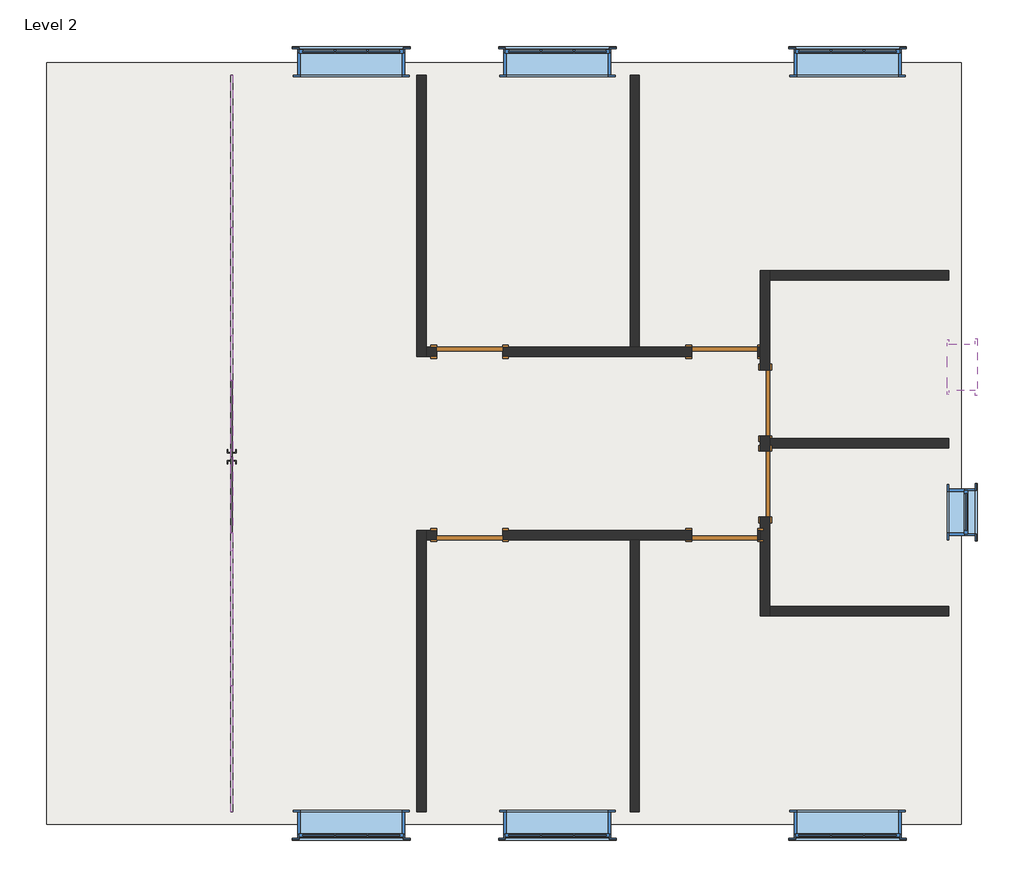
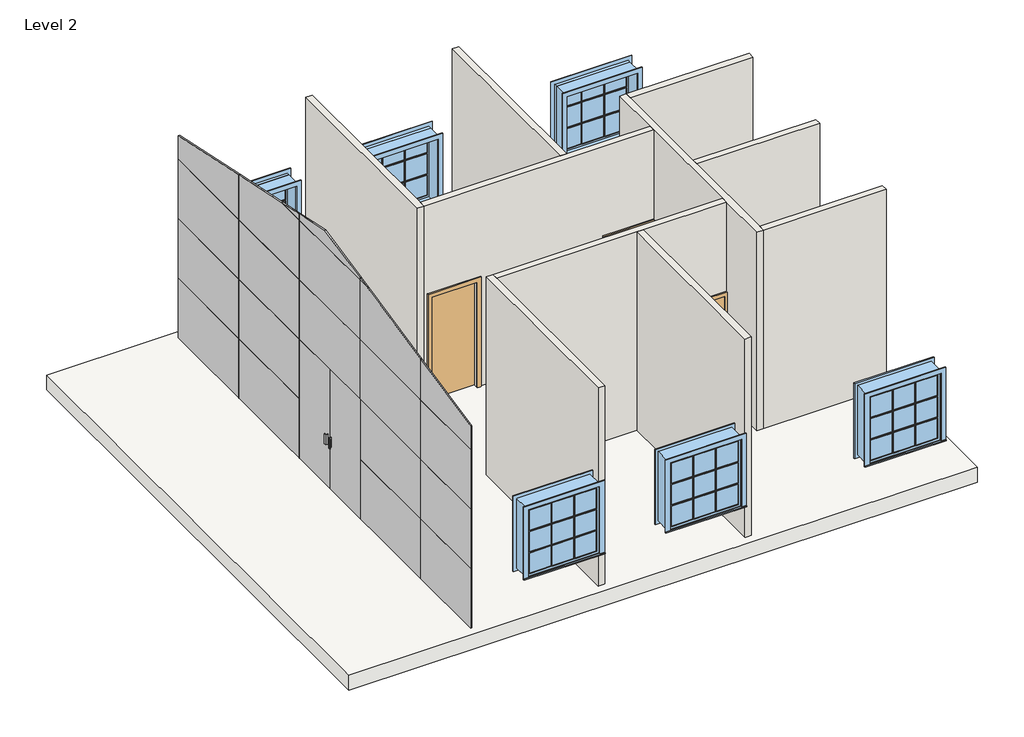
# One storey: 22 plates, 10 walls, 8 windows, 6 doors, 1 slab.
"""IFC4 building model written with IfcOpenShell, lengths in millimetres."""

from ifc_helpers import new_model, si_unit, frame, origin, place, context, project, spatial, polyline, outline, extrude, faceted_brep, transform, mapped, element, save
from components import m_single_flush_0864_x_2134mm_f97c17fc, m_single_flush_0864_x_2134mm_c8713c46, m_curtain_wall_dbl_glass_m_curtain_wall_dbl_glass_c5b9b46c, system_panel_glazed_d184565c, system_panel_glazed_a29ab13c, system_panel_glazed_8885a126, system_panel_glazed_2cf4602f, system_panel_glazed_9fd06ce3, system_panel_glazed_8aa4ee30, system_panel_glazed_09b1b49a, system_panel_glazed_e96e9fbf, system_panel_glazed_1f278f70, m_casement_3x3_with_trim_1100_x_1400_df31fcd5, m_casement_with_trim_0610_x_0610mm_632b6733

model = new_model("IFC4")

# Units and contexts
model_context = context("Model", 3, world=origin())
ifc_project = project(units=[si_unit("LENGTHUNIT", "METRE", prefix="MILLI")], contexts=[model_context])

# Site, building, storey
site = spatial("IfcSite", under=ifc_project)
building = spatial("IfcBuilding", under=site)
storey = spatial("IfcBuildingStorey", under=building, Name="Level 2", Elevation=4000.0)

# Doors
placement = place(None, origin())
m_single_flush_0864_x_2134mm_shape = m_single_flush_0864_x_2134mm_f97c17fc(model_context)
element("IfcDoor", 1, ObjectType="M_Single-Flush : 0864 x 2134mm", at=placement, inside=storey, context=model_context, shape_type="MappedRepresentation", body=[
    mapped(m_single_flush_0864_x_2134mm_shape, transform((3757.7395993, 123.3609063, 4000.0), x_axis=(0.0, -1.0, 0.0), y_axis=(1.0, 0.0, 0.0), z_axis=(0.0, 0.0, 1.0))),
])
element("IfcDoor", 2, ObjectType="M_Single-Flush : 0864 x 2134mm", at=placement, inside=storey, context=model_context, shape_type="MappedRepresentation", body=[
    mapped(m_single_flush_0864_x_2134mm_shape, transform((3225.7395993, 791.3609063, 4000.0), x_axis=(1.0, 0.0, 0.0), y_axis=(0.0, 1.0, 0.0), z_axis=(0.0, 0.0, 1.0))),
])
element("IfcDoor", 3, ObjectType="M_Single-Flush : 0864 x 2134mm", at=placement, inside=storey, context=model_context, shape_type="MappedRepresentation", body=[
    mapped(m_single_flush_0864_x_2134mm_shape, transform((-113.960681, -1608.6390937, 4000.0), x_axis=(-1.0, 0.0, 0.0), y_axis=(0.0, -1.0, 0.0), z_axis=(0.0, 0.0, 1.0))),
])
m_single_flush_0864_x_2134mm_2_shape = m_single_flush_0864_x_2134mm_c8713c46(model_context)
element("IfcDoor", 4, ObjectType="M_Single-Flush : 0864 x 2134mm", at=placement, inside=storey, context=model_context, shape_type="MappedRepresentation", body=[
    mapped(m_single_flush_0864_x_2134mm_2_shape, transform((-113.960681, 791.3609063, 4000.0), x_axis=(-1.0, 0.0, 0.0), y_axis=(0.0, -1.0, 0.0), z_axis=(0.0, 0.0, 1.0))),
])
element("IfcDoor", 5, ObjectType="M_Single-Flush : 0864 x 2134mm", at=placement, inside=storey, context=model_context, shape_type="MappedRepresentation", body=[
    mapped(m_single_flush_0864_x_2134mm_2_shape, transform((3757.7395993, -940.6390937, 4000.0), x_axis=(0.0, 1.0, 0.0), y_axis=(-1.0, 0.0, 0.0), z_axis=(0.0, 0.0, 1.0))),
])
element("IfcDoor", 6, ObjectType="M_Single-Flush : 0864 x 2134mm", at=placement, inside=storey, context=model_context, shape_type="MappedRepresentation", body=[
    mapped(m_single_flush_0864_x_2134mm_2_shape, transform((3225.7395993, -1608.6390937, 4000.0), x_axis=(1.0, 0.0, 0.0), y_axis=(0.0, 1.0, 0.0), z_axis=(0.0, 0.0, 1.0))),
])

# Plates
m_curtain_wall_dbl_glass_m_curtain_wall_dbl_glass_shape = m_curtain_wall_dbl_glass_m_curtain_wall_dbl_glass_c5b9b46c(model_context)
element("IfcPlate", 7, ObjectType="M_Curtain Wall Dbl Glass : M_Curtain Wall Dbl Glass", at=placement, inside=storey, context=model_context, shape_type="MappedRepresentation", body=[
    mapped(m_curtain_wall_dbl_glass_m_curtain_wall_dbl_glass_shape, transform((-3188.7166223, -583.6390937, 4000.0), x_axis=(0.0, -1.0, 0.0), y_axis=(1.0, 0.0, 0.0), z_axis=(0.0, 0.0, 1.0))),
])
system_panel_glazed_shape = system_panel_glazed_d184565c(model_context)
element("IfcPlate", 8, ObjectType="System Panel : Glazed", at=placement, inside=storey, context=model_context, shape_type="MappedRepresentation", body=[
    mapped(system_panel_glazed_shape, transform((-3188.7166223, 3416.3609063, 4000.0), x_axis=(0.0, -1.0, 0.0), y_axis=(1.0, 0.0, 0.0), z_axis=(0.0, 0.0, 1.0))),
])
element("IfcPlate", 9, ObjectType="System Panel : Glazed", at=placement, inside=storey, context=model_context, shape_type="MappedRepresentation", body=[
    mapped(system_panel_glazed_shape, transform((-3188.7166223, 1416.3609063, 4000.0), x_axis=(0.0, -1.0, 0.0), y_axis=(1.0, 0.0, 0.0), z_axis=(0.0, 0.0, 1.0))),
])
element("IfcPlate", 10, ObjectType="System Panel : Glazed", at=placement, inside=storey, context=model_context, shape_type="MappedRepresentation", body=[
    mapped(system_panel_glazed_shape, transform((-3188.7166223, -2583.6390937, 4000.0), x_axis=(0.0, -1.0, 0.0), y_axis=(1.0, 0.0, 0.0), z_axis=(0.0, 0.0, 1.0))),
])
element("IfcPlate", 11, ObjectType="System Panel : Glazed", at=placement, inside=storey, context=model_context, shape_type="MappedRepresentation", body=[
    mapped(system_panel_glazed_shape, transform((-3188.7166223, 3416.3609063, 5200.0), x_axis=(0.0, -1.0, 0.0), y_axis=(1.0, 0.0, 0.0), z_axis=(0.0, 0.0, 1.0))),
])
element("IfcPlate", 12, ObjectType="System Panel : Glazed", at=placement, inside=storey, context=model_context, shape_type="MappedRepresentation", body=[
    mapped(system_panel_glazed_shape, transform((-3188.7166223, 1416.3609063, 5200.0), x_axis=(0.0, -1.0, 0.0), y_axis=(1.0, 0.0, 0.0), z_axis=(0.0, 0.0, 1.0))),
])
element("IfcPlate", 13, ObjectType="System Panel : Glazed", at=placement, inside=storey, context=model_context, shape_type="MappedRepresentation", body=[
    mapped(system_panel_glazed_shape, transform((-3188.7166223, -2583.6390937, 5200.0), x_axis=(0.0, -1.0, 0.0), y_axis=(1.0, 0.0, 0.0), z_axis=(0.0, 0.0, 1.0))),
])
element("IfcPlate", 14, ObjectType="System Panel : Glazed", at=placement, inside=storey, context=model_context, shape_type="MappedRepresentation", body=[
    mapped(system_panel_glazed_shape, transform((-3188.7166223, 3416.3609063, 6400.0), x_axis=(0.0, -1.0, 0.0), y_axis=(1.0, 0.0, 0.0), z_axis=(0.0, 0.0, 1.0))),
])
element("IfcPlate", 15, ObjectType="System Panel : Glazed", at=placement, inside=storey, context=model_context, shape_type="MappedRepresentation", body=[
    mapped(system_panel_glazed_shape, transform((-3188.7166223, 1416.3609063, 6400.0), x_axis=(0.0, -1.0, 0.0), y_axis=(1.0, 0.0, 0.0), z_axis=(0.0, 0.0, 1.0))),
])
element("IfcPlate", 16, ObjectType="System Panel : Glazed", at=placement, inside=storey, context=model_context, shape_type="MappedRepresentation", body=[
    mapped(system_panel_glazed_shape, transform((-3188.7166223, -583.6390937, 6400.0), x_axis=(0.0, -1.0, 0.0), y_axis=(1.0, 0.0, 0.0), z_axis=(0.0, 0.0, 1.0))),
])
element("IfcPlate", 17, ObjectType="System Panel : Glazed", at=placement, inside=storey, context=model_context, shape_type="MappedRepresentation", body=[
    mapped(system_panel_glazed_shape, transform((-3188.7166223, -2583.6390937, 6400.0), x_axis=(0.0, -1.0, 0.0), y_axis=(1.0, 0.0, 0.0), z_axis=(0.0, 0.0, 1.0))),
])
element("IfcPlate", 18, ObjectType="System Panel : Glazed", at=placement, inside=storey, context=model_context, shape_type="MappedRepresentation", body=[
    mapped(system_panel_glazed_shape, transform((-3188.7166223, -583.6390937, 7600.0), x_axis=(0.0, -1.0, 0.0), y_axis=(1.0, 0.0, 0.0), z_axis=(0.0, 0.0, 1.0))),
])
system_panel_glazed_2_shape = system_panel_glazed_a29ab13c(model_context)
element("IfcPlate", 19, ObjectType="System Panel : Glazed", at=placement, inside=storey, context=model_context, shape_type="MappedRepresentation", body=[
    mapped(system_panel_glazed_2_shape, transform((-3188.7166223, -4408.6390937, 4000.0), x_axis=(0.0, -1.0, 0.0), y_axis=(1.0, 0.0, 0.0), z_axis=(0.0, 0.0, 1.0))),
])
element("IfcPlate", 20, ObjectType="System Panel : Glazed", at=placement, inside=storey, context=model_context, shape_type="MappedRepresentation", body=[
    mapped(system_panel_glazed_2_shape, transform((-3188.7166223, -4408.6390937, 5200.0), x_axis=(0.0, -1.0, 0.0), y_axis=(1.0, 0.0, 0.0), z_axis=(0.0, 0.0, 1.0))),
])
element("IfcPlate", 21, ObjectType="System Panel : Glazed", at=placement, inside=storey, context=model_context, shape_type="MappedRepresentation", body=[
    mapped(system_panel_glazed_2_shape, transform((-3188.7166223, -4408.6390937, 6400.0), x_axis=(0.0, -1.0, 0.0), y_axis=(1.0, 0.0, 0.0), z_axis=(0.0, 0.0, 1.0))),
])
system_panel_glazed_3_shape = system_panel_glazed_8885a126(model_context)
element("IfcPlate", 22, ObjectType="System Panel : Glazed", at=placement, inside=storey, context=model_context, shape_type="MappedRepresentation", body=[
    mapped(system_panel_glazed_3_shape, transform((-3188.7166223, 3416.3609063, 7600.0), x_axis=(0.0, -1.0, 0.0), y_axis=(1.0, 0.0, 0.0), z_axis=(0.0, 0.0, 1.0))),
])
system_panel_glazed_4_shape = system_panel_glazed_2cf4602f(model_context)
element("IfcPlate", 23, ObjectType="System Panel : Glazed", at=placement, inside=storey, context=model_context, shape_type="MappedRepresentation", body=[
    mapped(system_panel_glazed_4_shape, transform((-3188.7166223, 1416.3609063, 7600.0), x_axis=(0.0, -1.0, 0.0), y_axis=(1.0, 0.0, 0.0), z_axis=(0.0, 0.0, 1.0))),
])
system_panel_glazed_5_shape = system_panel_glazed_9fd06ce3(model_context)
element("IfcPlate", 24, ObjectType="System Panel : Glazed", at=placement, inside=storey, context=model_context, shape_type="MappedRepresentation", body=[
    mapped(system_panel_glazed_5_shape, transform((-3188.7166223, -2583.6390937, 7600.0), x_axis=(0.0, -1.0, 0.0), y_axis=(1.0, 0.0, 0.0), z_axis=(0.0, 0.0, 1.0))),
])
system_panel_glazed_6_shape = system_panel_glazed_8aa4ee30(model_context)
element("IfcPlate", 25, ObjectType="System Panel : Glazed", at=placement, inside=storey, context=model_context, shape_type="MappedRepresentation", body=[
    mapped(system_panel_glazed_6_shape, transform((-3188.7166223, -4408.6390937, 7600.0), x_axis=(0.0, -1.0, 0.0), y_axis=(1.0, 0.0, 0.0), z_axis=(0.0, 0.0, 1.0))),
])
system_panel_glazed_7_shape = system_panel_glazed_09b1b49a(model_context)
element("IfcPlate", 26, ObjectType="System Panel : Glazed", at=placement, inside=storey, context=model_context, shape_type="MappedRepresentation", body=[
    mapped(system_panel_glazed_7_shape, transform((-3188.7166223, 709.5088625, 8800.0), x_axis=(0.0, -1.0, 0.0), y_axis=(1.0, 0.0, 0.0), z_axis=(0.0, 0.0, 1.0))),
])
system_panel_glazed_8_shape = system_panel_glazed_e96e9fbf(model_context)
element("IfcPlate", 27, ObjectType="System Panel : Glazed", at=placement, inside=storey, context=model_context, shape_type="MappedRepresentation", body=[
    mapped(system_panel_glazed_8_shape, transform((-3188.7166223, -583.6390937, 8800.0), x_axis=(0.0, -1.0, 0.0), y_axis=(1.0, 0.0, 0.0), z_axis=(0.0, 0.0, 1.0))),
])
system_panel_glazed_9_shape = system_panel_glazed_1f278f70(model_context)
element("IfcPlate", 28, ObjectType="System Panel : Glazed", at=placement, inside=storey, context=model_context, shape_type="MappedRepresentation", body=[
    mapped(system_panel_glazed_9_shape, transform((-3188.7166223, -1701.7870499, 8800.0), x_axis=(0.0, -1.0, 0.0), y_axis=(1.0, 0.0, 0.0), z_axis=(0.0, 0.0, 1.0))),
])

# Slab
element("IfcSlab", 29, ObjectType="Generic 300mm", at=placement, inside=storey, context=model_context, shape_type="SweptSolid", body=[
    extrude(outline(polyline([(-5653.7166223, 4581.3609063), (6326.2833777, 4581.3609063), (6326.2833777, -5398.6390937), (-5653.7166223, -5398.6390937), (-5653.7166223, 4581.3609063)])), frame((0.0, 0.0, 3700.0), z_axis=(0.0, 0.0, 1.0), x_axis=(1.0, 0.0, 0.0)), (0.0, 0.0, 1.0), 300.0),
])

# Walls
element("IfcWall", 30, ObjectType="Interior - Blockwork 100", at=placement, inside=storey, context=model_context, shape_type="Brep", body=[
    faceted_brep([(-683.960681, -5233.6390937, 4000.0), (-683.960681, -1670.6390937, 4000.0), (-683.960681, -1546.6390937, 4000.0), (-683.960681, -1546.6390937, 8000.0), (-683.960681, -1670.6390937, 8000.0), (-683.960681, -5233.6390937, 8000.0), (-807.960681, -5233.6390937, 4000.0), (-807.960681, -5233.6390937, 8000.0), (-807.960681, -1546.6390937, 8000.0), (-807.960681, -1546.6390937, 4000.0)], [[[0, 1, 2, 3, 4, 5]], [[6, 7, 8, 9]], [[2, 1, 0, 6, 9]], [[5, 4, 3, 8, 7]], [[0, 5, 7, 6]], [[3, 2, 9, 8]]]),
])
element("IfcWall", 31, ObjectType="Interior - Blockwork 100", at=placement, inside=storey, context=model_context, shape_type="Brep", body=[
    faceted_brep([(-683.960681, 729.3609063, 4000.0), (-545.960681, 729.3609063, 4000.0), (-545.960681, 729.3609063, 6134.0), (318.039319, 729.3609063, 6134.0), (318.039319, 729.3609063, 4000.0), (2793.7395993, 729.3609063, 4000.0), (2793.7395993, 729.3609063, 6134.0), (3657.7395993, 729.3609063, 6134.0), (3657.7395993, 729.3609063, 4000.0), (3695.7395993, 729.3609063, 4000.0), (3695.7395993, 729.3609063, 8000.0), (-683.960681, 729.3609063, 8000.0), (-545.960681, 853.3609063, 6134.0), (-545.960681, 853.3609063, 4000.0), (-683.960681, 853.3609063, 4000.0), (-683.960681, 853.3609063, 8000.0), (1987.2833777, 853.3609063, 8000.0), (2111.2833777, 853.3609063, 8000.0), (3695.7395993, 853.3609063, 8000.0), (3695.7395993, 853.3609063, 4000.0), (3657.7395993, 853.3609063, 4000.0), (3657.7395993, 853.3609063, 6134.0), (2793.7395993, 853.3609063, 6134.0), (2793.7395993, 853.3609063, 4000.0), (2111.2833777, 853.3609063, 4000.0), (1987.2833777, 853.3609063, 4000.0), (318.039319, 853.3609063, 4000.0), (318.039319, 853.3609063, 6134.0)], [[[0, 1, 2, 3, 4, 5, 6, 7, 8, 9, 10, 11]], [[12, 13, 14, 15, 16, 17, 18, 19, 20, 21, 22, 23, 24, 25, 26, 27]], [[9, 8, 20, 19]], [[14, 13, 1, 0]], [[26, 25, 24, 23, 5, 4]], [[11, 10, 18, 17, 16, 15]], [[0, 11, 15, 14]], [[10, 9, 19, 18]], [[21, 20, 8, 7]], [[22, 21, 7, 6]], [[23, 22, 6, 5]], [[2, 1, 13, 12]], [[3, 2, 12, 27]], [[4, 3, 27, 26]]]),
])
element("IfcWall", 32, ObjectType="Interior - Blockwork 100", at=placement, inside=storey, context=model_context, shape_type="Brep", body=[
    faceted_brep([(-683.960681, -1670.6390937, 4000.0), (-545.960681, -1670.6390937, 4000.0), (-545.960681, -1670.6390937, 6134.0), (318.039319, -1670.6390937, 6134.0), (318.039319, -1670.6390937, 4000.0), (1987.2833777, -1670.6390937, 4000.0), (2111.2833777, -1670.6390937, 4000.0), (2793.7395993, -1670.6390937, 4000.0), (2793.7395993, -1670.6390937, 6134.0), (3657.7395993, -1670.6390937, 6134.0), (3657.7395993, -1670.6390937, 4000.0), (3695.7395993, -1670.6390937, 4000.0), (3695.7395993, -1670.6390937, 8000.0), (2111.2833777, -1670.6390937, 8000.0), (1987.2833777, -1670.6390937, 8000.0), (-683.960681, -1670.6390937, 8000.0), (-545.960681, -1546.6390937, 6134.0), (-545.960681, -1546.6390937, 4000.0), (-683.960681, -1546.6390937, 4000.0), (-683.960681, -1546.6390937, 8000.0), (3695.7395993, -1546.6390937, 8000.0), (3695.7395993, -1546.6390937, 4000.0), (3657.7395993, -1546.6390937, 4000.0), (3657.7395993, -1546.6390937, 6134.0), (2793.7395993, -1546.6390937, 6134.0), (2793.7395993, -1546.6390937, 4000.0), (318.039319, -1546.6390937, 4000.0), (318.039319, -1546.6390937, 6134.0)], [[[0, 1, 2, 3, 4, 5, 6, 7, 8, 9, 10, 11, 12, 13, 14, 15]], [[16, 17, 18, 19, 20, 21, 22, 23, 24, 25, 26, 27]], [[11, 10, 22, 21]], [[18, 17, 1, 0]], [[26, 25, 7, 6, 5, 4]], [[15, 14, 13, 12, 20, 19]], [[0, 15, 19, 18]], [[12, 11, 21, 20]], [[23, 22, 10, 9]], [[24, 23, 9, 8]], [[25, 24, 8, 7]], [[2, 1, 17, 16]], [[3, 2, 16, 27]], [[4, 3, 27, 26]]]),
])
element("IfcWall", 33, ObjectType="Interior - Blockwork 100", at=placement, inside=storey, context=model_context, shape_type="Brep", body=[
    faceted_brep([(3695.7395993, -308.6390937, 4000.0), (3695.7395993, -508.6390937, 4000.0), (3695.7395993, -508.6390937, 6134.0), (3695.7395993, -1372.6390937, 6134.0), (3695.7395993, -1372.6390937, 4000.0), (3695.7395993, -1546.6390937, 4000.0), (3695.7395993, -1670.6390937, 4000.0), (3695.7395993, -2670.6390937, 4000.0), (3695.7395993, -2670.6390937, 8000.0), (3695.7395993, -1670.6390937, 8000.0), (3695.7395993, -1546.6390937, 8000.0), (3695.7395993, 729.3609063, 8000.0), (3695.7395993, 853.3609063, 8000.0), (3695.7395993, 1853.3609063, 8000.0), (3695.7395993, 1853.3609063, 4000.0), (3695.7395993, 853.3609063, 4000.0), (3695.7395993, 729.3609063, 4000.0), (3695.7395993, 555.3609063, 4000.0), (3695.7395993, 555.3609063, 6134.0), (3695.7395993, -308.6390937, 6134.0), (3819.7395993, -508.6390937, 6134.0), (3819.7395993, -508.6390937, 4000.0), (3819.7395993, -470.6390937, 4000.0), (3819.7395993, -346.6390937, 4000.0), (3819.7395993, -308.6390937, 4000.0), (3819.7395993, -308.6390937, 6134.0), (3819.7395993, 555.3609063, 6134.0), (3819.7395993, 555.3609063, 4000.0), (3819.7395993, 1729.3609063, 4000.0), (3819.7395993, 1853.3609063, 4000.0), (3819.7395993, 1853.3609063, 8000.0), (3819.7395993, 1729.3609063, 8000.0), (3819.7395993, -346.6390937, 8000.0), (3819.7395993, -470.6390937, 8000.0), (3819.7395993, -2546.6390937, 8000.0), (3819.7395993, -2670.6390937, 8000.0), (3819.7395993, -2670.6390937, 4000.0), (3819.7395993, -2546.6390937, 4000.0), (3819.7395993, -1372.6390937, 4000.0), (3819.7395993, -1372.6390937, 6134.0)], [[[0, 1, 2, 3, 4, 5, 6, 7, 8, 9, 10, 11, 12, 13, 14, 15, 16, 17, 18, 19]], [[20, 21, 22, 23, 24, 25, 26, 27, 28, 29, 30, 31, 32, 33, 34, 35, 36, 37, 38, 39]], [[24, 23, 22, 21, 1, 0]], [[17, 16, 15, 14, 29, 28, 27]], [[38, 37, 36, 7, 6, 5, 4]], [[13, 12, 11, 10, 9, 8, 35, 34, 33, 32, 31, 30]], [[8, 7, 36, 35]], [[14, 13, 30, 29]], [[25, 24, 0, 19]], [[26, 25, 19, 18]], [[27, 26, 18, 17]], [[2, 1, 21, 20]], [[3, 2, 20, 39]], [[4, 3, 39, 38]]]),
])
element("IfcWall", 34, ObjectType="Interior - Blockwork 100", at=placement, inside=storey, context=model_context, shape_type="SweptSolid", body=[
    extrude(outline(polyline([(6161.2833777, -2670.6390937), (3819.7395993, -2670.6390937), (3819.7395993, -2546.6390937), (6161.2833777, -2546.6390937), (6161.2833777, -2670.6390937)])), frame((0.0, 0.0, 4000.0), z_axis=(0.0, 0.0, 1.0), x_axis=(1.0, 0.0, 0.0)), (0.0, 0.0, 1.0), 4000.0),
])
element("IfcWall", 35, ObjectType="Interior - Blockwork 100", at=placement, inside=storey, context=model_context, shape_type="SweptSolid", body=[
    extrude(outline(polyline([(6161.2833777, 1729.3609063), (3819.7395993, 1729.3609063), (3819.7395993, 1853.3609063), (6161.2833777, 1853.3609063), (6161.2833777, 1729.3609063)])), frame((0.0, 0.0, 4000.0), z_axis=(0.0, 0.0, 1.0), x_axis=(1.0, 0.0, 0.0)), (0.0, 0.0, 1.0), 4000.0),
])
element("IfcWall", 36, ObjectType="Interior - Blockwork 100", at=placement, inside=storey, context=model_context, shape_type="SweptSolid", body=[
    extrude(outline(polyline([(1987.2833777, 853.3609063), (1987.2833777, 4416.3609063), (2111.2833777, 4416.3609063), (2111.2833777, 853.3609063), (1987.2833777, 853.3609063)])), frame((0.0, 0.0, 4000.0), z_axis=(0.0, 0.0, 1.0), x_axis=(1.0, 0.0, 0.0)), (0.0, 0.0, 1.0), 4000.0),
])
element("IfcWall", 37, ObjectType="Interior - Blockwork 100", at=placement, inside=storey, context=model_context, shape_type="SweptSolid", body=[
    extrude(outline(polyline([(1987.2833777, -5233.6390937), (1987.2833777, -1670.6390937), (2111.2833777, -1670.6390937), (2111.2833777, -5233.6390937), (1987.2833777, -5233.6390937)])), frame((0.0, 0.0, 4000.0), z_axis=(0.0, 0.0, 1.0), x_axis=(1.0, 0.0, 0.0)), (0.0, 0.0, 1.0), 4000.0),
])
element("IfcWall", 38, ObjectType="Interior - Blockwork 100", at=placement, inside=storey, context=model_context, shape_type="Brep", body=[
    faceted_brep([(-683.960681, 729.3609063, 4000.0), (-683.960681, 853.3609063, 4000.0), (-683.960681, 4416.3609063, 4000.0), (-683.960681, 4416.3609063, 8000.0), (-683.960681, 853.3609063, 8000.0), (-683.960681, 729.3609063, 8000.0), (-807.960681, 729.3609063, 4000.0), (-807.960681, 729.3609063, 8000.0), (-807.960681, 4416.3609063, 8000.0), (-807.960681, 4416.3609063, 4000.0)], [[[0, 1, 2, 3, 4, 5]], [[6, 7, 8, 9]], [[2, 1, 0, 6, 9]], [[5, 4, 3, 8, 7]], [[0, 5, 7, 6]], [[3, 2, 9, 8]]]),
])
element("IfcWall", 39, ObjectType="Interior - Blockwork 100", at=placement, inside=storey, context=model_context, shape_type="SweptSolid", body=[
    extrude(outline(polyline([(6161.2833777, -470.6390937), (3819.7395993, -470.6390937), (3819.7395993, -346.6390937), (6161.2833777, -346.6390937), (6161.2833777, -470.6390937)])), frame((0.0, 0.0, 4000.0), z_axis=(0.0, 0.0, 1.0), x_axis=(1.0, 0.0, 0.0)), (0.0, 0.0, 1.0), 4000.0),
])

# Windows
m_casement_3x3_with_trim_1100_x_1400_shape = m_casement_3x3_with_trim_1100_x_1400_df31fcd5(model_context)
element("IfcWindow", 40, ObjectType="M_Casement 3x3 with Trim : 1100 x 1400", at=placement, inside=storey, context=model_context, shape_type="MappedRepresentation", body=[
    mapped(m_casement_3x3_with_trim_1100_x_1400_shape, transform((-1663.7166223, 4591.3609063, 4000.0), x_axis=(1.0, 0.0, 0.0), y_axis=(0.0, 1.0, 0.0), z_axis=(0.0, 0.0, 1.0))),
])
element("IfcWindow", 41, ObjectType="M_Casement 3x3 with Trim : 1100 x 1400", at=placement, inside=storey, context=model_context, shape_type="MappedRepresentation", body=[
    mapped(m_casement_3x3_with_trim_1100_x_1400_shape, transform((1036.2833777, 4591.3609063, 4000.0), x_axis=(1.0, 0.0, 0.0), y_axis=(0.0, 1.0, 0.0), z_axis=(0.0, 0.0, 1.0))),
])
element("IfcWindow", 42, ObjectType="M_Casement 3x3 with Trim : 1100 x 1400", at=placement, inside=storey, context=model_context, shape_type="MappedRepresentation", body=[
    mapped(m_casement_3x3_with_trim_1100_x_1400_shape, transform((4836.2833777, 4591.3609063, 4000.0), x_axis=(1.0, 0.0, 0.0), y_axis=(0.0, 1.0, 0.0), z_axis=(0.0, 0.0, 1.0))),
])
element("IfcWindow", 43, ObjectType="M_Casement 3x3 with Trim : 1100 x 1400", at=placement, inside=storey, context=model_context, shape_type="MappedRepresentation", body=[
    mapped(m_casement_3x3_with_trim_1100_x_1400_shape, transform((4836.2833777, -5408.6390937, 4000.0), x_axis=(-1.0, 0.0, 0.0), y_axis=(0.0, -1.0, 0.0), z_axis=(0.0, 0.0, 1.0))),
])
element("IfcWindow", 44, ObjectType="M_Casement 3x3 with Trim : 1100 x 1400", at=placement, inside=storey, context=model_context, shape_type="MappedRepresentation", body=[
    mapped(m_casement_3x3_with_trim_1100_x_1400_shape, transform((1036.2833777, -5408.6390937, 4000.0), x_axis=(-1.0, 0.0, 0.0), y_axis=(0.0, -1.0, 0.0), z_axis=(0.0, 0.0, 1.0))),
])
element("IfcWindow", 45, ObjectType="M_Casement 3x3 with Trim : 1100 x 1400", at=placement, inside=storey, context=model_context, shape_type="MappedRepresentation", body=[
    mapped(m_casement_3x3_with_trim_1100_x_1400_shape, transform((-1663.7166223, -5408.6390937, 4000.0), x_axis=(-1.0, 0.0, 0.0), y_axis=(0.0, -1.0, 0.0), z_axis=(0.0, 0.0, 1.0))),
])
m_casement_with_trim_0610_x_0610mm_shape = m_casement_with_trim_0610_x_0610mm_632b6733(model_context)
element("IfcWindow", 46, ObjectType="M_Casement with Trim : 0610 x 0610mm", at=placement, inside=storey, context=model_context, shape_type="MappedRepresentation", body=[
    mapped(m_casement_with_trim_0610_x_0610mm_shape, transform((6336.2833777, 591.3609063, 4790.0), x_axis=(0.0, -1.0, 0.0), y_axis=(1.0, 0.0, 0.0), z_axis=(0.0, 0.0, 1.0))),
])
element("IfcWindow", 47, ObjectType="M_Casement with Trim : 0610 x 0610mm", at=placement, inside=storey, context=model_context, shape_type="MappedRepresentation", body=[
    mapped(m_casement_with_trim_0610_x_0610mm_shape, transform((6336.2833777, -1308.6390937, 4000.0), x_axis=(0.0, -1.0, 0.0), y_axis=(1.0, 0.0, 0.0), z_axis=(0.0, 0.0, 1.0))),
])

save(model, "model.ifc")
